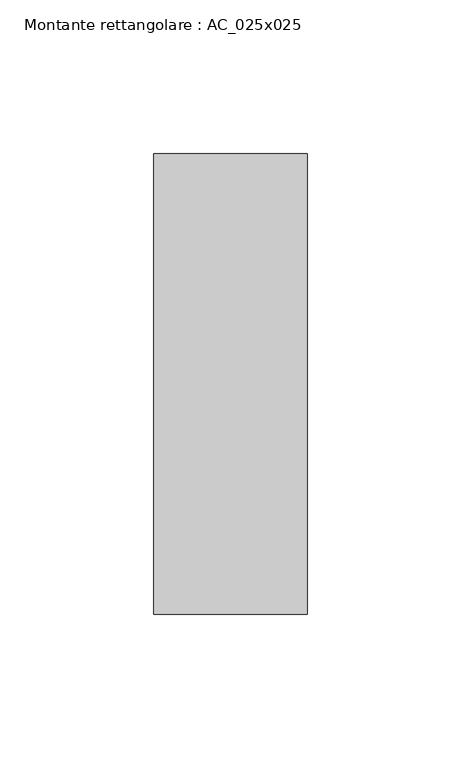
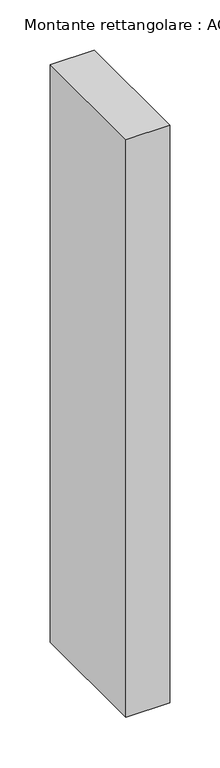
"""IFC4 building model written with IfcOpenShell, lengths in millimetres: member geometry, Montante rettangolare : AC_025x025."""

from ifc_helpers import new_model, si_unit, frame, origin, place, context, project, spatial, polyline, outline, extrude, source, transform, mapped, element, save


def montante_rettangolare_ac_025x025_ae409ff8(model_context):
    return source(origin(), model_context, "Body", "SweptSolid", [
        extrude(outline(polyline([(0.0, 75.0), (0.0, -75.0), (-50.0, -75.0), (-50.0, 75.0), (0.0, 75.0)])), frame((0.0, 0.0, -699.970898), z_axis=(0.0, 0.0, 1.0), x_axis=(1.0, 0.0, 0.0)), (0.0, 0.0, 1.0), 699.970898),
    ])


if __name__ == "__main__":
    model = new_model("IFC4")
    model_context = context("Model", 3, world=origin())
    ifc_project = project(units=[si_unit("LENGTHUNIT", "METRE", prefix="MILLI")], contexts=[model_context])
    site = spatial("IfcSite", under=ifc_project)
    building = spatial("IfcBuilding", under=site)
    placement = place(None, origin())
    montante_rettangolare_ac_025x025_shape = montante_rettangolare_ac_025x025_ae409ff8(model_context)
    element("IfcMember", 1, ObjectType="Montante rettangolare : AC_025x025", at=placement, inside=building, context=model_context, shape_type="MappedRepresentation", body=[
        mapped(montante_rettangolare_ac_025x025_shape, transform((0.0, 0.0, 0.0), x_axis=(1.0, 0.0, 0.0), y_axis=(0.0, 1.0, 0.0), z_axis=(0.0, 0.0, 1.0))),
    ])
    save(model, "model.ifc")
